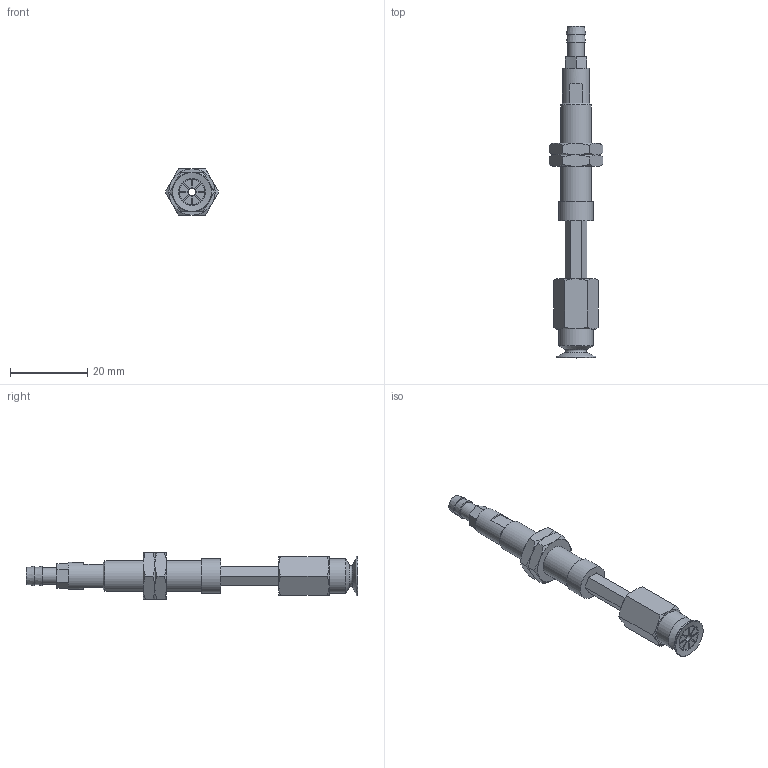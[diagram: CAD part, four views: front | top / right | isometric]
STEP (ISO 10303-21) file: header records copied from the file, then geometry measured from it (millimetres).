
FILE_DESCRIPTION(('STEP AP203'),'1');
FILE_NAME('-T.stp','2025-08-12T08:08:31',(' '),(' '),'Spatial InterOp 3D',' ',' ');
FILE_SCHEMA(('CONFIG_CONTROL_DESIGN'));
Length unit declared in the file: millimetre
Products named in the file (7): BNABPATH-10B-15-※-T; NAPATH-10A-15--F; Nut-10A-S; CONNECTOR-10A-3-T-PA; BPAG-10B-※; ADAPTER; NAPATH-10A-15--M
Assembly tree (7 placements, depth 2):
  BNABPATH-10B-15-※-T
    NAPATH-10A-15--F
    Nut-10A-S  x2
    CONNECTOR-10A-3-T-PA
    BPAG-10B-※
    ADAPTER
    NAPATH-10A-15--M
Bounding box: 13.86 x 86 x 12 mm (x, y, z)
Volume: 4133 mm3; surface area: 5163.8 mm2
Topology: 7 solids, 7 shells, 175 faces, 399 edges, 249 vertices
Faces by surface type: plane 89, cone 49, cylinder 26, torus 11
Full cylindrical faces by diameter (mm): 2 x3, 3 x1, 4 x2, 4.134 x1, 4.3 x1, 5 x1, 6 x2, 7 x2, 7.188 x2, 8 x1, 9 x2
Entity records: 4580 total; most frequent: CARTESIAN_POINT 964, DIRECTION 690, ORIENTED_EDGE 606, EDGE_CURVE 303, AXIS2_PLACEMENT_3D 275, EDGE_LOOP 214, VERTEX_POINT 213, FACE_OUTER_BOUND 180
